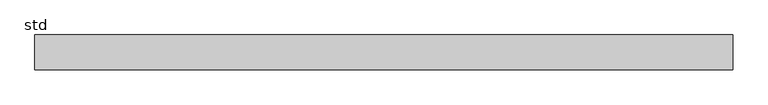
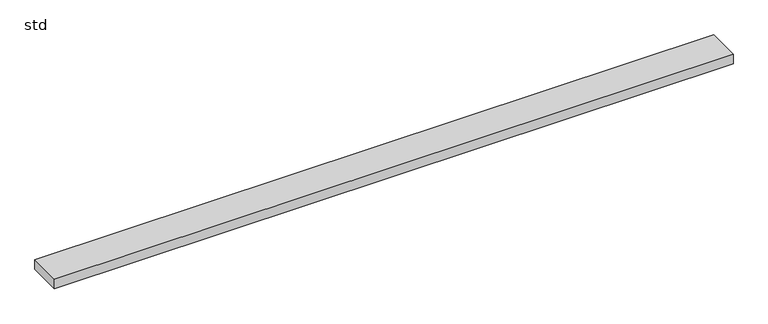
"""IFC4 building model written with IfcOpenShell, lengths in millimetres: proxy geometry, 400_35_NS_betonstrook : std."""

from ifc_helpers import new_model, si_unit, origin, origin_with_axes, place, context, project, spatial, polyline, outline, extrude, source, transform, mapped, element, save


def std_3d7576f2(model_context):
    return source(origin(), model_context, "Body", "SweptSolid", [
        extrude(outline(polyline([(-1000.0, 0.0), (1000.0, 0.0), (1000.0, -100.0), (-1000.0, -100.0), (-1000.0, 0.0)])), origin_with_axes(), (0.0, 0.0, 1.0), 30.0),
    ])


if __name__ == "__main__":
    model = new_model("IFC4")
    model_context = context("Model", 3, world=origin())
    ifc_project = project(units=[si_unit("LENGTHUNIT", "METRE", prefix="MILLI")], contexts=[model_context])
    site = spatial("IfcSite", under=ifc_project)
    building = spatial("IfcBuilding", under=site)
    placement = place(None, origin())
    std_shape = std_3d7576f2(model_context)
    element("IfcBuildingElementProxy", 1, Name="400_35_NS_betonstrook : std", ObjectType="400_35_NS_betonstrook : std", at=placement, inside=building, context=model_context, shape_type="MappedRepresentation", body=[
        mapped(std_shape, transform((0.0, 0.0, 0.0), x_axis=(1.0, 0.0, 0.0), y_axis=(0.0, 1.0, 0.0), z_axis=(0.0, 0.0, 1.0))),
    ])
    save(model, "model.ifc")
